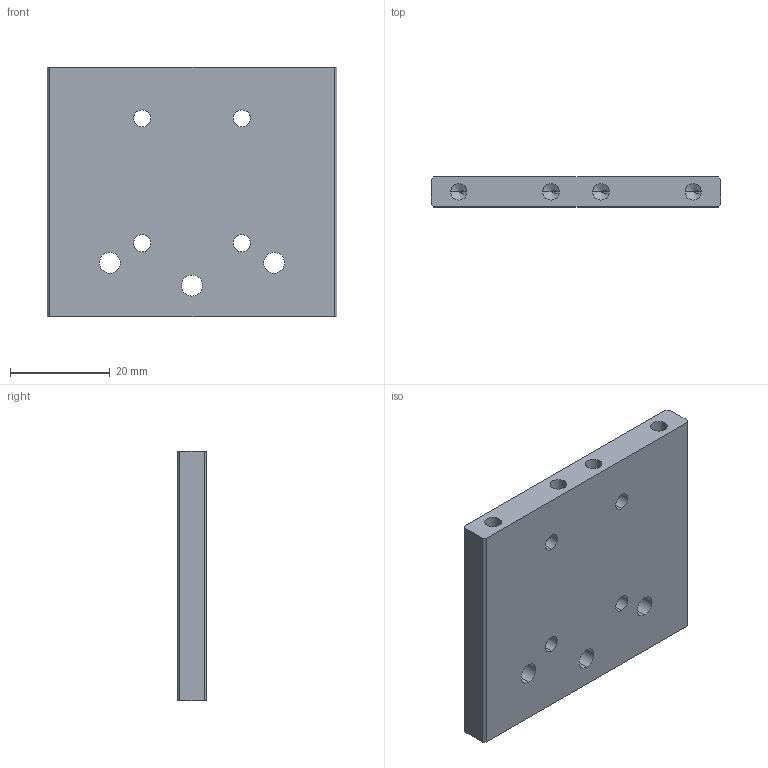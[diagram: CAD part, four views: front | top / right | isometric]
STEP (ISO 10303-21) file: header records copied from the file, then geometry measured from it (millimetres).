
FILE_DESCRIPTION (( 'STEP AP214' ), '1' );
FILE_NAME ('MAM13102 -XB- Plaque Jonction XY _ Bot.STEP', '2024-12-20T16:32:57', ( '' ), ( '' ), 'SwSTEP 2.0', 'SolidWorks 2019', '' );
FILE_SCHEMA (( 'AUTOMOTIVE_DESIGN' ));
Length unit declared in the file: millimetre
Products named in the file (1): MAM13102 -XB- Plaque Jonction XY _ Bot
Bounding box: 58 x 6 x 50 mm (x, y, z)
Volume: 15759.1 mm3; surface area: 8601.5 mm2
Topology: 1 solids, 1 shells, 64 faces, 162 edges, 92 vertices
Faces by surface type: cylinder 30, cone 24, plane 10
Entity records: 1872 total; most frequent: DIRECTION 344, CARTESIAN_POINT 303, ORIENTED_EDGE 292, EDGE_CURVE 146, AXIS2_PLACEMENT_3D 133, VERTEX_POINT 92, EDGE_LOOP 86, VECTOR 78
